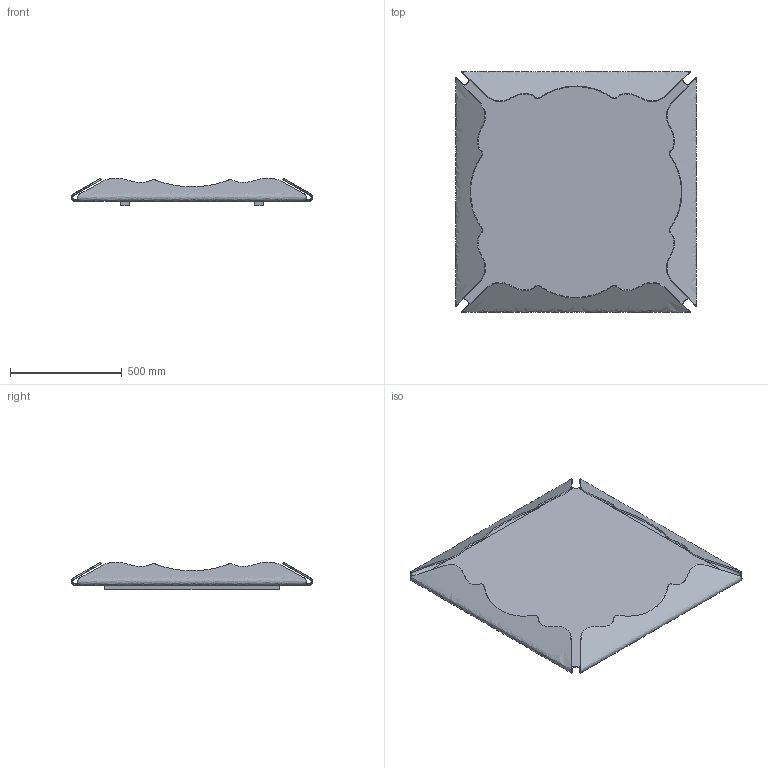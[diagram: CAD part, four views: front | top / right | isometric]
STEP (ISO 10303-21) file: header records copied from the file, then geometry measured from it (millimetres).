
FILE_DESCRIPTION(/* description */ (''),/* implementation_level */ '2;1');
FILE_NAME(/* name */ '362 - Gallery Decor 108x108',/* time_stamp */ '2010-11-02T14:39:59+01:00',/* author */ (''),/* organization */ (''),/* preprocessor_version */ 'ST-DEVELOPER v10',/* originating_system */ '',/* authorisation */ '');
FILE_SCHEMA (('CONFIG_CONTROL_DESIGN'));
Length unit declared in the file: centimetre
Products named in the file (1): 1
Bounding box: 1080 x 1080 x 124.6 mm (x, y, z)
Volume: 11688317.8 mm3; surface area: 4132608.2 mm2
Topology: 7 solids, 7 shells, 124 faces, 330 edges, 220 vertices
Faces by surface type: bspline 110, plane 14
Entity records: 5202 total; most frequent: CARTESIAN_POINT 3160, ORIENTED_EDGE 660, EDGE_CURVE 330, B_SPLINE_CURVE_WITH_KNOTS 238, VERTEX_POINT 220, EDGE_LOOP 132, ADVANCED_FACE 124, FACE_OUTER_BOUND 124
